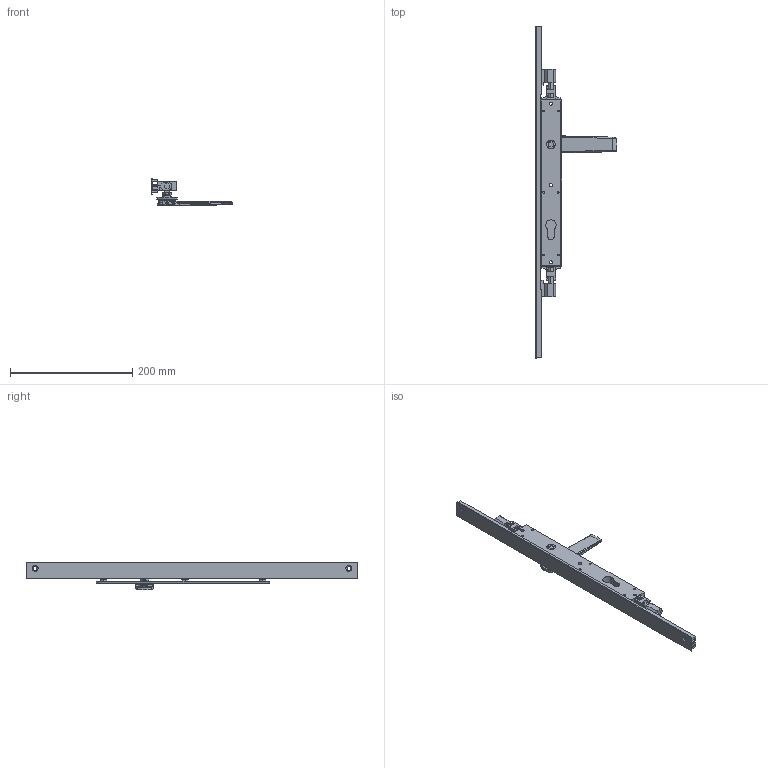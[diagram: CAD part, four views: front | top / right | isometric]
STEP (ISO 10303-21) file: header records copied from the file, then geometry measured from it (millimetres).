
FILE_DESCRIPTION (( 'STEP AP214' ), '1' );
FILE_NAME ('TPL-W-EU-609-U 06Nov2024.STEP', '2024-11-27T01:36:12', ( '' ), ( '' ), 'SwSTEP 2.0', 'SolidWorks 2023', '' );
FILE_SCHEMA (( 'AUTOMOTIVE_DESIGN' ));
Length unit declared in the file: millimetre
Products named in the file (18): Copy of LKC-505 Swing handle zinc - simplified^Copy of TPGen2 handle non-keyed long zinc - simplified_TPL-W-EU-109 04Nov2024; Copy of LKC-583 Escutcheon plate unkeyed 285mm long zinc - simplified^Copy of TPGen2 handle non-keyed long zinc - simplified_TPL-W-EU-109 04Nov2024; Copy of TPLGen2 lock body keyed^Copy of TPLGen2 lock body keyed assembly_TPL-W-EU-109 04Nov2024; TPL-W-EU-609-U 06Nov2024; Bolt.step; Copy of LKC-584 Pivot body zinc - simplified^Copy of TPGen2 handle non-keyed long zinc - simplified_TPL-W-EU-109 04Nov2024; Copy (2) of COV-112-B Cover B suit TPLGen2 standard range^TPL-W-EU-109 04Nov2024_2870mm; Copy of TPLGen2 lock body keyed assembly^TPL-W-EU-109 04Nov2024_Bolts retracted; Copy of COV-112-C Cover C TPLGen2 Lock body^TPL-W-EU-109 04Nov2024; Copy of TPGen2 handle non-keyed long zinc - simplified^TPL-W-EU-109 04Nov2024_Left; Copy of Copy of Copy of LKC-531 Lock twinpoint transmission rod wood system^TPL-W-EU-109 04Nov2024_Standard Range 2891.7mm; Copy of Adapter DnF - simplfied^TPL-W-EU-109 04Nov2024_26mm backset; Copy of Copy of LKC-531 Lock twinpoint transmission rod wood system^TPL-W-EU-109 04Nov2024_Standard Range 2891.7mm; Copy of TPLGen2 push rod - simplified^Copy of TPLGen2 lock body keyed assembly_TPL-W-EU-109 04Nov2024_Female thread M10; Copy of Adapter CnE - simplfied^TPL-W-EU-109 04Nov2024_26mm backset; Copy of COV-112-A Cover A suit TPLGen2 standard range^TPL-W-EU-109 04Nov2024_2870mm; Copy of LKC-585 Rotator body zinc^Copy of TPGen2 handle non-keyed long zinc - simplified_TPL-W-EU-109 04Nov2024; Copy of LKC-586 Spindle square 8mm with M4 hole^Copy of TPGen2 handle non-keyed long zinc - simplified_TPL-W-EU-109 04Nov2024_25mm
Assembly tree (15 placements, depth 3):
  TPL-W-EU-609-U 06Nov2024
    Copy of TPLGen2 lock body keyed assembly^TPL-W-EU-109 04Nov2024_Bolts retracted
      Copy of TPLGen2 lock body keyed^Copy of TPLGen2 lock body keyed assembly_TPL-W-EU-109 04Nov2024
      Copy of TPLGen2 push rod - simplified^Copy of TPLGen2 lock body keyed assembly_TPL-W-EU-109 04Nov2024_Female thread M10  x2
    Copy of TPGen2 handle non-keyed long zinc - simplified^TPL-W-EU-109 04Nov2024_Left
      Copy of LKC-583 Escutcheon plate unkeyed 285mm long zinc - simplified^Copy of TPGen2 handle non-keyed long zinc - simplified_TPL-W-EU-109 04Nov2024
      Copy of LKC-505 Swing handle zinc - simplified^Copy of TPGen2 handle non-keyed long zinc - simplified_TPL-W-EU-109 04Nov2024
      Copy of LKC-585 Rotator body zinc^Copy of TPGen2 handle non-keyed long zinc - simplified_TPL-W-EU-109 04Nov2024
      Copy of LKC-586 Spindle square 8mm with M4 hole^Copy of TPGen2 handle non-keyed long zinc - simplified_TPL-W-EU-109 04Nov2024_25mm
      Copy of LKC-584 Pivot body zinc - simplified^Copy of TPGen2 handle non-keyed long zinc - simplified_TPL-W-EU-109 04Nov2024
    Copy of COV-112-C Cover C TPLGen2 Lock body^TPL-W-EU-109 04Nov2024
    Copy of Copy of LKC-531 Lock twinpoint transmission rod wood system^TPL-W-EU-109 04Nov2024_Standard Range 2891.7mm
    Copy of Copy of Copy of LKC-531 Lock twinpoint transmission rod wood system^TPL-W-EU-109 04Nov2024_Standard Range 2891.7mm
    Copy of Adapter CnE - simplfied^TPL-W-EU-109 04Nov2024_26mm backset
    Copy of Adapter DnF - simplfied^TPL-W-EU-109 04Nov2024_26mm backset
  Bolt.step
  Copy (2) of COV-112-B Cover B suit TPLGen2 standard range^TPL-W-EU-109 04Nov2024_2870mm
  Copy of COV-112-A Cover A suit TPLGen2 standard range^TPL-W-EU-109 04Nov2024_2870mm
Bounding box: 134.12 x 544 x 45.86 mm (x, y, z)
Volume: 271118.9 mm3; surface area: 136116.5 mm2
Topology: 13 solids, 13 shells, 887 faces, 2187 edges, 1360 vertices
Faces by surface type: plane 310, bspline 241, cylinder 206, cone 70, torus 52, sphere 8
Entity records: 31804 total; most frequent: CARTESIAN_POINT 12765, ORIENTED_EDGE 4182, DIRECTION 3417, EDGE_CURVE 2091, VERTEX_POINT 1300, AXIS2_PLACEMENT_3D 1254, EDGE_LOOP 947, VECTOR 909
